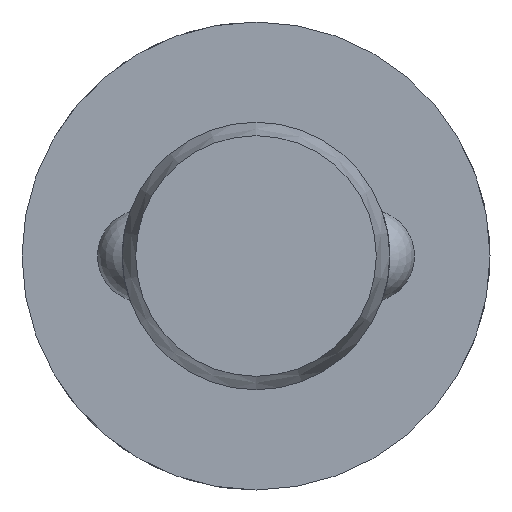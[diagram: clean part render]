
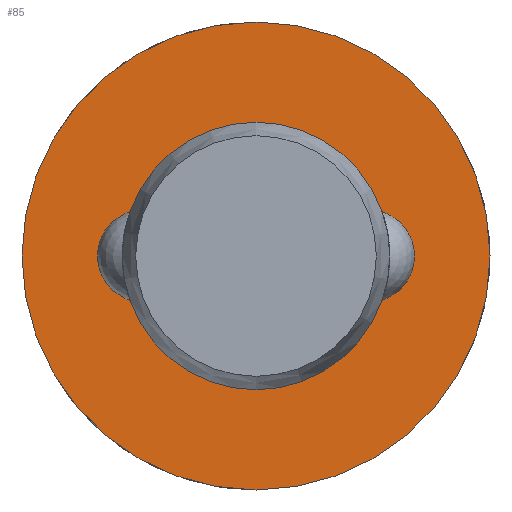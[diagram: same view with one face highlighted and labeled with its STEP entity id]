
A CAD part, left-side view. The second image highlights one B-rep face of the part: STEP entity #85.
In plain terms, the highlighted planar face has unit normal (-1, 0, 0).
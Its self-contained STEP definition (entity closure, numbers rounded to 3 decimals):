
#85 = ADVANCED_FACE( '', ( #130, #131 ), #132, .F. );
#130 = FACE_OUTER_BOUND( '', #200, .T. );
#131 = FACE_BOUND( '', #201, .T. );
#132 = PLANE( '', #202 );
#200 = EDGE_LOOP( '', ( #315 ) );
#201 = EDGE_LOOP( '', ( #316 ) );
#202 = AXIS2_PLACEMENT_3D( '', #317, #318, #319 );
#315 = ORIENTED_EDGE( '', *, *, #458, .F. );
#316 = ORIENTED_EDGE( '', *, *, #455, .T. );
#317 = CARTESIAN_POINT( '', ( 33.2, 4., 0. ) );
#318 = DIRECTION( '', ( 1., 0., 0. ) );
#319 = DIRECTION( '', ( 0., 0., -1. ) );
#455 = EDGE_CURVE( '', #528, #528, #529, .T. );
#458 = EDGE_CURVE( '', #534, #534, #535, .T. );
#528 = VERTEX_POINT( '', #732 );
#529 = CIRCLE( '', #733, 4. );
#534 = VERTEX_POINT( '', #820 );
#535 = CIRCLE( '', #821, 7. );
#732 = CARTESIAN_POINT( '', ( 33.2, 0., -4. ) );
#733 = AXIS2_PLACEMENT_3D( '', #898, #899, #900 );
#820 = CARTESIAN_POINT( '', ( 33.2, 0., -7. ) );
#821 = AXIS2_PLACEMENT_3D( '', #901, #902, #903 );
#898 = CARTESIAN_POINT( '', ( 33.2, 0., 0. ) );
#899 = DIRECTION( '', ( 1., 0., 0. ) );
#900 = DIRECTION( '', ( 0., 0., -1. ) );
#901 = CARTESIAN_POINT( '', ( 33.2, 0., 0. ) );
#902 = DIRECTION( '', ( 1., 0., 0. ) );
#903 = DIRECTION( '', ( 0., 0., -1. ) );
